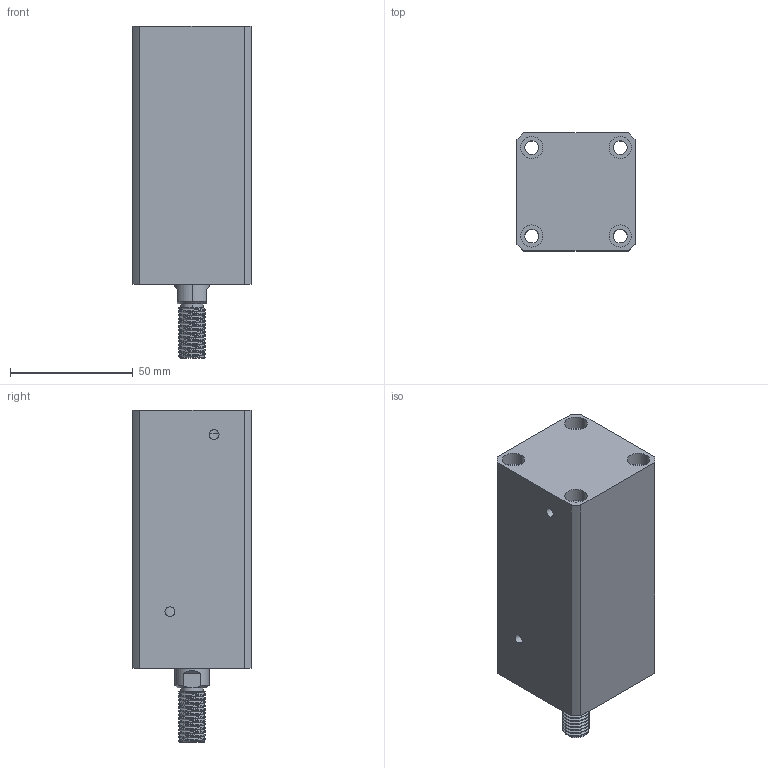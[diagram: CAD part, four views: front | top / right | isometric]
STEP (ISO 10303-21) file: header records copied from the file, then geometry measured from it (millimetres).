
FILE_DESCRIPTION (( 'STEP AP214' ), '1' );
FILE_NAME ('chtb-sdma25x60w_asm.STEP', '2018-05-22T07:38:22', ( 'Windows' ), ( 'Microsoft' ), 'SwSTEP 2.0', 'SolidWorks 2015', '' );
FILE_SCHEMA (( 'AUTOMOTIVE_DESIGN' ));
Length unit declared in the file: millimetre
Products named in the file (4): CHTB-SDMA25X60WHSG; CHTB-SDMA25X60NBT; CHTB-25QG; chtb-sdma25x60w_asm
Assembly tree (3 placements, depth 2):
  chtb-sdma25x60w_asm
    CHTB-25QG
    CHTB-SDMA25X60NBT
    CHTB-SDMA25X60WHSG
Bounding box: 48 x 48 x 135 mm (x, y, z)
Volume: 209068.2 mm3; surface area: 53592.3 mm2
Topology: 3 solids, 3 shells, 177 faces, 479 edges, 325 vertices
Faces by surface type: cylinder 117, plane 38, bspline 12, cone 10
Entity records: 10676 total; most frequent: CARTESIAN_POINT 6329, ORIENTED_EDGE 950, DIRECTION 772, EDGE_CURVE 475, VERTEX_POINT 325, AXIS2_PLACEMENT_3D 312, EDGE_LOOP 216, ADVANCED_FACE 177
